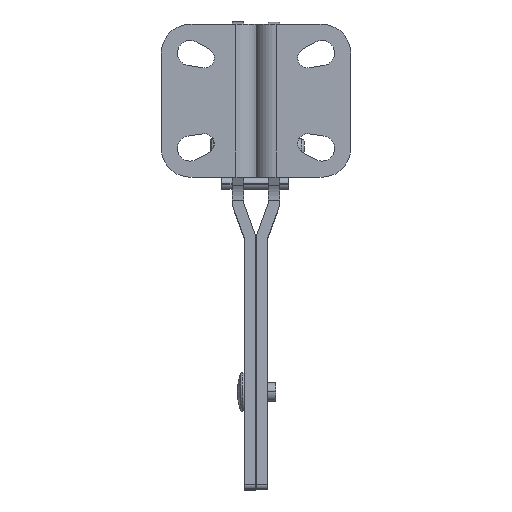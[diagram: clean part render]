
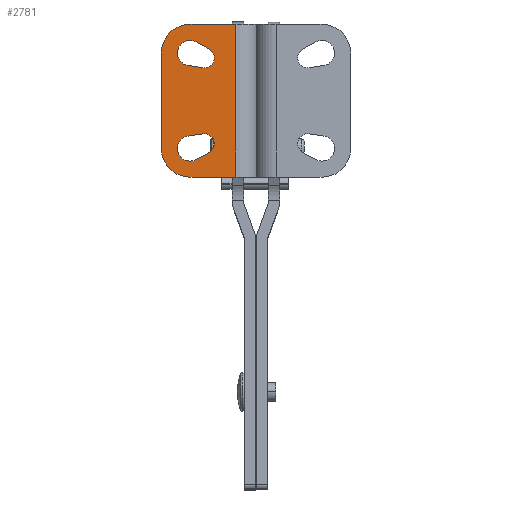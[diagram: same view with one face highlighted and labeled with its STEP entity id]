
A CAD part, front view. The second image highlights one B-rep face of the part: STEP entity #2781.
In plain terms, the highlighted planar face has unit normal (0, -1, 0).
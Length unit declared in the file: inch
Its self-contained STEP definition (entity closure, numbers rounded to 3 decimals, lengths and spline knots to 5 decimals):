
#1116=CARTESIAN_POINT('',(0.47468,0.,1.78825));
#1117=VERTEX_POINT('',#1116);
#1126=CARTESIAN_POINT('',(0.42671,0.,1.46175));
#1127=VERTEX_POINT('',#1126);
#1128=CARTESIAN_POINT('',(0.4507,0.,1.625));
#1129=DIRECTION('',(0.0,1.,0.0));
#1130=DIRECTION('',(0.145,0.0,0.989));
#1131=AXIS2_PLACEMENT_3D('',#1128,#1129,#1130);
#1132=CIRCLE('',#1131,0.165);
#1133=EDGE_CURVE('',#1127,#1117,#1132,.T.);
#1160=CARTESIAN_POINT('',(0.37148,0.,0.51974));
#1161=VERTEX_POINT('',#1160);
#1177=CARTESIAN_POINT('',(0.42671,0.,0.53825));
#1178=VERTEX_POINT('',#1177);
#1185=CARTESIAN_POINT('',(0.4507,0.,0.375));
#1186=DIRECTION('',(0.0,1.0,0.0));
#1187=DIRECTION('',(0.48,0.0,-0.877));
#1188=AXIS2_PLACEMENT_3D('',#1185,#1186,#1187);
#1189=CIRCLE('',#1188,0.165);
#1190=EDGE_CURVE('',#1161,#1178,#1189,.T.);
#1202=CARTESIAN_POINT('',(0.18553,0.,0.10983));
#1203=VERTEX_POINT('',#1202);
#1219=CARTESIAN_POINT('',(0.4507,0.,0.0));
#1220=VERTEX_POINT('',#1219);
#1227=CARTESIAN_POINT('',(0.4507,0.,0.375));
#1228=DIRECTION('',(0.0,1.0,0.0));
#1229=DIRECTION('',(-0.707,0.0,-0.707));
#1230=AXIS2_PLACEMENT_3D('',#1227,#1228,#1229);
#1231=CIRCLE('',#1230,0.375);
#1232=EDGE_CURVE('',#1220,#1203,#1231,.T.);
#1242=CARTESIAN_POINT('',(0.18553,0.,1.89017));
#1243=VERTEX_POINT('',#1242);
#1252=CARTESIAN_POINT('',(0.4507,0.,2.0));
#1253=VERTEX_POINT('',#1252);
#1254=CARTESIAN_POINT('',(0.4507,0.,1.625));
#1255=DIRECTION('',(0.0,1.0,0.0));
#1256=DIRECTION('',(-0.707,0.0,0.707));
#1257=AXIS2_PLACEMENT_3D('',#1254,#1255,#1256);
#1258=CIRCLE('',#1257,0.375);
#1259=EDGE_CURVE('',#1243,#1253,#1258,.T.);
#1294=CARTESIAN_POINT('',(0.0757,0.0,1.625));
#1295=VERTEX_POINT('',#1294);
#1302=CARTESIAN_POINT('',(0.4507,0.,1.625));
#1303=DIRECTION('',(0.0,1.0,0.0));
#1304=DIRECTION('',(-0.707,0.0,0.707));
#1305=AXIS2_PLACEMENT_3D('',#1302,#1303,#1304);
#1306=CIRCLE('',#1305,0.375);
#1307=EDGE_CURVE('',#1295,#1243,#1306,.T.);
#1326=CARTESIAN_POINT('',(0.0757,0.0,0.375));
#1327=VERTEX_POINT('',#1326);
#1334=CARTESIAN_POINT('',(0.0757,0.0,0.375));
#1335=DIRECTION('',(0.0,0.0,1.0));
#1336=VECTOR('',#1335,1.25);
#1337=LINE('',#1334,#1336);
#1338=EDGE_CURVE('',#1327,#1295,#1337,.T.);
#1460=CARTESIAN_POINT('',(0.4507,0.,0.375));
#1461=DIRECTION('',(0.0,1.0,0.0));
#1462=DIRECTION('',(-0.707,0.0,-0.707));
#1463=AXIS2_PLACEMENT_3D('',#1460,#1461,#1462);
#1464=CIRCLE('',#1463,0.375);
#1465=EDGE_CURVE('',#1203,#1327,#1464,.T.);
#1477=CARTESIAN_POINT('',(0.6198,0.,0.56662));
#1478=VERTEX_POINT('',#1477);
#1479=CARTESIAN_POINT('',(0.70111,0.,0.32396));
#1480=VERTEX_POINT('',#1479);
#1481=CARTESIAN_POINT('',(0.6387,0.,0.438));
#1482=DIRECTION('',(0.0,1.0,0.0));
#1483=DIRECTION('',(-0.145,0.0,0.989));
#1484=AXIS2_PLACEMENT_3D('',#1481,#1482,#1483);
#1485=CIRCLE('',#1484,0.13);
#1486=EDGE_CURVE('',#1478,#1480,#1485,.T.);
#1509=CARTESIAN_POINT('',(0.52992,0.,0.23026));
#1510=VERTEX_POINT('',#1509);
#1511=CARTESIAN_POINT('',(0.70111,0.,0.32396));
#1512=DIRECTION('',(-0.877,0.0,-0.48));
#1513=VECTOR('',#1512,0.19516);
#1514=LINE('',#1511,#1513);
#1515=EDGE_CURVE('',#1480,#1510,#1514,.T.);
#1534=CARTESIAN_POINT('',(0.4507,0.,0.375));
#1535=DIRECTION('',(0.0,1.0,0.0));
#1536=DIRECTION('',(0.48,0.0,-0.877));
#1537=AXIS2_PLACEMENT_3D('',#1534,#1535,#1536);
#1538=CIRCLE('',#1537,0.165);
#1539=EDGE_CURVE('',#1510,#1161,#1538,.T.);
#1551=CARTESIAN_POINT('',(0.42671,0.,0.53825));
#1552=DIRECTION('',(0.989,0.0,0.145));
#1553=VECTOR('',#1552,0.19516);
#1554=LINE('',#1551,#1553);
#1555=EDGE_CURVE('',#1178,#1478,#1554,.T.);
#1568=CARTESIAN_POINT('',(0.70111,0.,1.67604));
#1569=VERTEX_POINT('',#1568);
#1570=CARTESIAN_POINT('',(0.6198,0.,1.43338));
#1571=VERTEX_POINT('',#1570);
#1572=CARTESIAN_POINT('',(0.6387,0.,1.562));
#1573=DIRECTION('',(0.0,1.,0.0));
#1574=DIRECTION('',(-0.48,0.0,-0.877));
#1575=AXIS2_PLACEMENT_3D('',#1572,#1573,#1574);
#1576=CIRCLE('',#1575,0.13);
#1577=EDGE_CURVE('',#1569,#1571,#1576,.T.);
#1600=CARTESIAN_POINT('',(0.6198,0.,1.43338));
#1601=DIRECTION('',(-0.989,0.0,0.145));
#1602=VECTOR('',#1601,0.19516);
#1603=LINE('',#1600,#1602);
#1604=EDGE_CURVE('',#1571,#1127,#1603,.T.);
#1619=CARTESIAN_POINT('',(0.52992,0.,1.76974));
#1620=VERTEX_POINT('',#1619);
#1627=CARTESIAN_POINT('',(0.4507,0.,1.625));
#1628=DIRECTION('',(0.0,1.,0.0));
#1629=DIRECTION('',(0.145,0.0,0.989));
#1630=AXIS2_PLACEMENT_3D('',#1627,#1628,#1629);
#1631=CIRCLE('',#1630,0.165);
#1632=EDGE_CURVE('',#1117,#1620,#1631,.T.);
#1642=CARTESIAN_POINT('',(0.52992,0.,1.76974));
#1643=DIRECTION('',(0.877,0.0,-0.48));
#1644=VECTOR('',#1643,0.19516);
#1645=LINE('',#1642,#1644);
#1646=EDGE_CURVE('',#1620,#1569,#1645,.T.);
#2714=CARTESIAN_POINT('',(1.0517,0.,2.0));
#2715=VERTEX_POINT('',#2714);
#2723=CARTESIAN_POINT('',(1.0517,0.,0.0));
#2724=VERTEX_POINT('',#2723);
#2725=CARTESIAN_POINT('',(1.0517,0.,0.0));
#2726=DIRECTION('',(0.0,0.0,1.0));
#2727=VECTOR('',#2726,2.0);
#2728=LINE('',#2725,#2727);
#2729=EDGE_CURVE('',#2724,#2715,#2728,.T.);
#2742=CARTESIAN_POINT('',(1.0517,0.,0.0));
#2743=DIRECTION('',(0.0,-1.0,0.0));
#2744=DIRECTION('',(0.0,0.0,-1.0));
#2745=AXIS2_PLACEMENT_3D('',#2742,#2743,#2744);
#2746=PLANE('',#2745);
#2747=ORIENTED_EDGE('',*,*,#1307,.F.);
#2748=ORIENTED_EDGE('',*,*,#1338,.F.);
#2749=ORIENTED_EDGE('',*,*,#1465,.F.);
#2750=ORIENTED_EDGE('',*,*,#1232,.F.);
#2751=CARTESIAN_POINT('',(0.4507,0.,0.0));
#2752=DIRECTION('',(1.0,0.0,0.0));
#2753=VECTOR('',#2752,0.601);
#2754=LINE('',#2751,#2753);
#2755=EDGE_CURVE('',#1220,#2724,#2754,.T.);
#2756=ORIENTED_EDGE('',*,*,#2755,.T.);
#2757=ORIENTED_EDGE('',*,*,#2729,.T.);
#2758=CARTESIAN_POINT('',(1.0517,0.,2.0));
#2759=DIRECTION('',(-1.0,0.0,0.0));
#2760=VECTOR('',#2759,0.601);
#2761=LINE('',#2758,#2760);
#2762=EDGE_CURVE('',#2715,#1253,#2761,.T.);
#2763=ORIENTED_EDGE('',*,*,#2762,.T.);
#2764=ORIENTED_EDGE('',*,*,#1259,.F.);
#2765=EDGE_LOOP('',(#2747,#2748,#2749,#2750,#2756,#2757,#2763,#2764));
#2766=FACE_OUTER_BOUND('',#2765,.T.);
#2767=ORIENTED_EDGE('',*,*,#1539,.T.);
#2768=ORIENTED_EDGE('',*,*,#1190,.T.);
#2769=ORIENTED_EDGE('',*,*,#1555,.T.);
#2770=ORIENTED_EDGE('',*,*,#1486,.T.);
#2771=ORIENTED_EDGE('',*,*,#1515,.T.);
#2772=EDGE_LOOP('',(#2767,#2768,#2769,#2770,#2771));
#2773=FACE_BOUND('',#2772,.T.);
#2774=ORIENTED_EDGE('',*,*,#1133,.T.);
#2775=ORIENTED_EDGE('',*,*,#1632,.T.);
#2776=ORIENTED_EDGE('',*,*,#1646,.T.);
#2777=ORIENTED_EDGE('',*,*,#1577,.T.);
#2778=ORIENTED_EDGE('',*,*,#1604,.T.);
#2779=EDGE_LOOP('',(#2774,#2775,#2776,#2777,#2778));
#2780=FACE_BOUND('',#2779,.T.);
#2781=ADVANCED_FACE('',(#2766,#2773,#2780),#2746,.T.);
